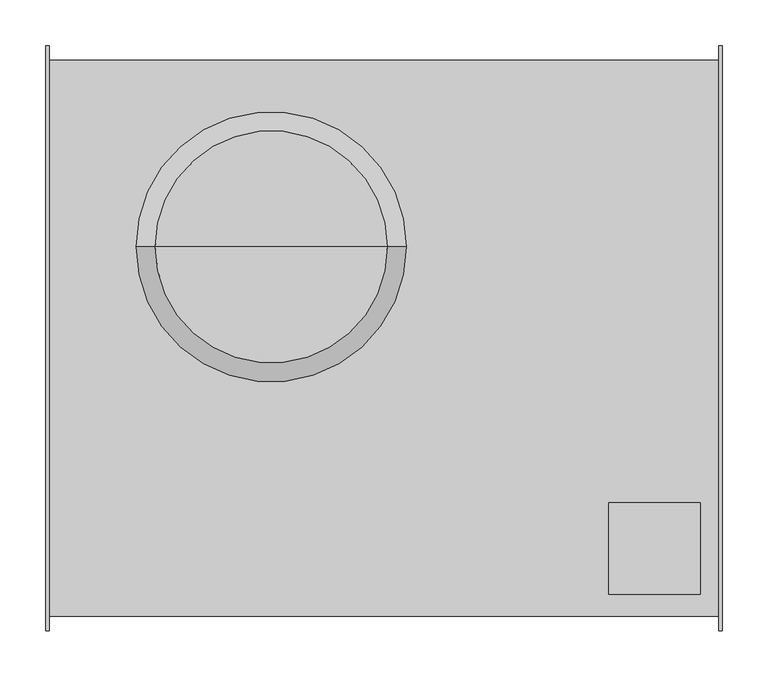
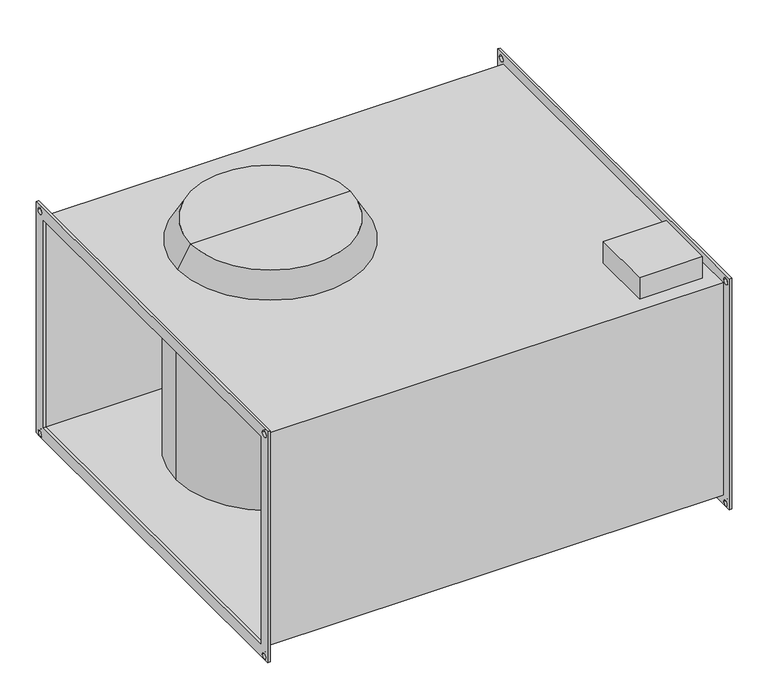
"""IFC4 building model written with IfcOpenShell, lengths in millimetres: proxy geometry."""

from ifc_helpers import new_model, si_unit, frame, origin, place, context, project, spatial, polyline, circle_curve, source, transform, mapped, element, save
from ifc_brep_helpers import plane_surface, cylinder_surface, revolved_surface, advanced_brep


def mechanical_equipment_73fcf4e4(model_context):
    return source(origin(), model_context, "Body", "AdvancedBrep", [
        advanced_brep(
        [(366.0, 320.0, 195.0), (366.0, 320.0, -195.0), (366.0, 310.0, -195.0), (366.0, 315.0, -190.0), (366.0, 305.0, -190.0), (366.0, -310.0, -195.0), (366.0, -305.0, -190.0), (366.0, -315.0, -190.0), (366.0, -320.0, -195.0), (366.0, -320.0, 195.0), (366.0, 300.0, 175.0), (366.0, -300.0, 175.0), (366.0, -300.0, -175.0), (366.0, 300.0, -175.0), (366.0, 305.0, 185.0), (366.0, 315.0, 185.0), (366.0, -315.0, 185.0), (366.0, -305.0, 185.0), (370.0, 320.0, 195.0), (370.0, -320.0, 195.0), (370.0, -320.0, -195.0), (370.0, -310.0, -195.0), (370.0, -315.0, -190.0), (370.0, -305.0, -190.0), (370.0, 310.0, -195.0), (370.0, 305.0, -190.0), (370.0, 315.0, -190.0), (370.0, 320.0, -195.0), (370.0, 300.0, 175.0), (370.0, 300.0, -175.0), (370.0, -300.0, -175.0), (370.0, -300.0, 175.0), (370.0, 315.0, 185.0), (370.0, 305.0, 185.0), (370.0, -305.0, 185.0), (370.0, -315.0, 185.0)],
        [
            (0, 1),
            (1, 2),
            (2, 3, circle_curve(frame((366.0, 310.0, -190.0), z_axis=(1.0, 0.0, 0.0), x_axis=(0.0, 1.0, 0.0)), 5.0)),
            (3, 4, circle_curve(frame((366.0, 310.0, -190.0), z_axis=(1.0, 0.0, 0.0), x_axis=(0.0, 1.0, 0.0)), 5.0)),
            (4, 2, circle_curve(frame((366.0, 310.0, -190.0), z_axis=(1.0, 0.0, 0.0), x_axis=(0.0, 1.0, 0.0)), 5.0)),
            (2, 5),
            (5, 6, circle_curve(frame((366.0, -310.0, -190.0), z_axis=(1.0, 0.0, 0.0), x_axis=(0.0, 1.0, 0.0)), 5.0)),
            (6, 7, circle_curve(frame((366.0, -310.0, -190.0), z_axis=(1.0, 0.0, 0.0), x_axis=(0.0, 1.0, 0.0)), 5.0)),
            (7, 5, circle_curve(frame((366.0, -310.0, -190.0), z_axis=(1.0, 0.0, 0.0), x_axis=(0.0, 1.0, 0.0)), 5.0)),
            (5, 8),
            (8, 9),
            (9, 0),
            (10, 11),
            (11, 12),
            (12, 13),
            (13, 10),
            (14, 15, circle_curve(frame((366.0, 310.0, 185.0), z_axis=(1.0, 0.0, 0.0), x_axis=(0.0, 1.0, 0.0)), 5.0)),
            (15, 14, circle_curve(frame((366.0, 310.0, 185.0), z_axis=(1.0, 0.0, 0.0), x_axis=(0.0, 1.0, 0.0)), 5.0)),
            (16, 17, circle_curve(frame((366.0, -310.0, 185.0), z_axis=(1.0, 0.0, 0.0), x_axis=(0.0, 1.0, 0.0)), 5.0)),
            (17, 16, circle_curve(frame((366.0, -310.0, 185.0), z_axis=(1.0, 0.0, 0.0), x_axis=(0.0, 1.0, 0.0)), 5.0)),
            (18, 19),
            (19, 20),
            (20, 21),
            (21, 22, circle_curve(frame((370.0, -310.0, -190.0), z_axis=(-1.0, 0.0, 0.0), x_axis=(0.0, 1.0, 0.0)), 5.0)),
            (22, 23, circle_curve(frame((370.0, -310.0, -190.0), z_axis=(-1.0, 0.0, 0.0), x_axis=(0.0, 1.0, 0.0)), 5.0)),
            (23, 21, circle_curve(frame((370.0, -310.0, -190.0), z_axis=(-1.0, 0.0, 0.0), x_axis=(0.0, 1.0, 0.0)), 5.0)),
            (21, 24),
            (24, 25, circle_curve(frame((370.0, 310.0, -190.0), z_axis=(-1.0, 0.0, 0.0), x_axis=(0.0, 1.0, 0.0)), 5.0)),
            (25, 26, circle_curve(frame((370.0, 310.0, -190.0), z_axis=(-1.0, 0.0, 0.0), x_axis=(0.0, 1.0, 0.0)), 5.0)),
            (26, 24, circle_curve(frame((370.0, 310.0, -190.0), z_axis=(-1.0, 0.0, 0.0), x_axis=(0.0, 1.0, 0.0)), 5.0)),
            (24, 27),
            (27, 18),
            (28, 29),
            (29, 30),
            (30, 31),
            (31, 28),
            (32, 33, circle_curve(frame((370.0, 310.0, 185.0), z_axis=(-1.0, 0.0, 0.0), x_axis=(0.0, 1.0, 0.0)), 5.0)),
            (33, 32, circle_curve(frame((370.0, 310.0, 185.0), z_axis=(-1.0, 0.0, 0.0), x_axis=(0.0, 1.0, 0.0)), 5.0)),
            (34, 35, circle_curve(frame((370.0, -310.0, 185.0), z_axis=(-1.0, 0.0, 0.0), x_axis=(0.0, 1.0, 0.0)), 5.0)),
            (35, 34, circle_curve(frame((370.0, -310.0, 185.0), z_axis=(-1.0, 0.0, 0.0), x_axis=(0.0, 1.0, 0.0)), 5.0)),
            (13, 29),
            (28, 10),
            (12, 30),
            (11, 31),
            (9, 19),
            (18, 0),
            (8, 20),
            (1, 27),
            (14, 33),
            (32, 15),
            (16, 35),
            (34, 17),
            (7, 22),
            (23, 6),
            (4, 25),
            (26, 3),
        ],
        [
            plane_surface(frame((366.0, 300.0, -175.0), z_axis=(-1.0, 0.0, 0.0), x_axis=(0.0, 0.0, 1.0))),
            plane_surface(frame((370.0, 300.0, -175.0), z_axis=(1.0, 0.0, 0.0), x_axis=(0.0, 0.0, -1.0))),
            plane_surface(frame((370.0, 300.0, 175.0), z_axis=(0.0, -1.0, 0.0), x_axis=(-1.0, 0.0, 0.0))),
            plane_surface(frame((370.0, 300.0, -175.0), z_axis=(0.0, 0.0, 1.0), x_axis=(-1.0, 0.0, 0.0))),
            plane_surface(frame((370.0, -300.0, -175.0), z_axis=(0.0, 1.0, 0.0), x_axis=(-1.0, 0.0, 0.0))),
            plane_surface(frame((370.0, -300.0, 175.0), z_axis=(0.0, 0.0, -1.0), x_axis=(-1.0, 0.0, 0.0))),
            plane_surface(frame((370.0, 320.0, 195.0), z_axis=(0.0, 0.0, 1.0), x_axis=(-1.0, 0.0, 0.0))),
            plane_surface(frame((370.0, -320.0, 195.0), z_axis=(0.0, -1.0, 0.0), x_axis=(-1.0, 0.0, 0.0))),
            plane_surface(frame((370.0, -320.0, -195.0), z_axis=(0.0, 0.0, -1.0), x_axis=(-1.0, 0.0, 0.0))),
            plane_surface(frame((370.0, 320.0, -195.0), z_axis=(0.0, 1.0, 0.0), x_axis=(-1.0, 0.0, 0.0))),
            revolved_surface(polyline([(370.0, 315.0, 185.0), (366.0, 315.0, 185.0)]), (-370.0, 310.0, 185.0), (1.0, 0.0, 0.0)),
            revolved_surface(polyline([(370.0, -305.0, 185.0), (366.0, -305.0, 185.0)]), (0.0, -310.0, 185.0), (1.0, 0.0, 0.0)),
            revolved_surface(polyline([(370.0, -305.0, -190.0), (366.0, -305.0, -190.0)]), (0.0, -310.0, -190.0), (1.0, 0.0, 0.0)),
            revolved_surface(polyline([(370.0, 315.0, -190.0), (366.0, 315.0, -190.0)]), (0.0, 310.0, -190.0), (1.0, 0.0, 0.0)),
        ],
        [
            (0, [[1, 2, 3, 4, 5, 6, 7, 8, 9, 10, 11, 12], [13, 14, 15, 16], [17, 18], [19, 20]]),
            (1, [[21, 22, 23, 24, 25, 26, 27, 28, 29, 30, 31, 32], [33, 34, 35, 36], [37, 38], [39, 40]]),
            (2, [[-16, 41, -33, 42]]),
            (3, [[-15, 43, -34, -41]]),
            (4, [[-14, 44, -35, -43]]),
            (5, [[-13, -42, -36, -44]]),
            (6, [[-12, 45, -21, 46]]),
            (7, [[-11, 47, -22, -45]]),
            (8, [[-47, -10, -6, -2, 48, -31, -27, -23]]),
            (9, [[-1, -46, -32, -48]]),
            (10, [[49, -37, 50, -17]]),
            (10, [[-49, -18, -50, -38]]),
            (11, [[51, -39, 52, -19]]),
            (11, [[-51, -20, -52, -40]]),
            (12, [[53, -24, -26, 54, -7, -9]]),
            (12, [[-53, -8, -54, -25]]),
            (13, [[55, -28, -30, 56, -3, -5]]),
            (13, [[-55, -4, -56, -29]]),
        ],
    ),
        advanced_brep(
        [(-370.0, -320.0, 195.0), (-370.0, 320.0, 195.0), (-370.0, 320.0, -195.0), (-370.0, 310.0, -195.0), (-370.0, 315.0, -190.0), (-370.0, 305.0, -190.0), (-370.0, -310.0, -195.0), (-370.0, -305.0, -190.0), (-370.0, -315.0, -190.0), (-370.0, -320.0, -195.0), (-370.0, -300.0, 175.0), (-370.0, -300.0, -175.0), (-370.0, 300.0, -175.0), (-370.0, 300.0, 175.0), (-370.0, 305.0, 185.0), (-370.0, 315.0, 185.0), (-370.0, -315.0, 185.0), (-370.0, -305.0, 185.0), (-366.0, -320.0, 195.0), (-366.0, -320.0, -195.0), (-366.0, -310.0, -195.0), (-366.0, -315.0, -190.0), (-366.0, -305.0, -190.0), (-366.0, 310.0, -195.0), (-366.0, 305.0, -190.0), (-366.0, 315.0, -190.0), (-366.0, 320.0, -195.0), (-366.0, 320.0, 195.0), (-366.0, -300.0, 175.0), (-366.0, 300.0, 175.0), (-366.0, 300.0, -175.0), (-366.0, -300.0, -175.0), (-366.0, 315.0, 185.0), (-366.0, 305.0, 185.0), (-366.0, -305.0, 185.0), (-366.0, -315.0, 185.0)],
        [
            (0, 1),
            (1, 2),
            (2, 3),
            (3, 4, circle_curve(frame((-370.0, 310.0, -190.0), z_axis=(1.0, 0.0, 0.0), x_axis=(0.0, 1.0, 0.0)), 5.0)),
            (4, 5, circle_curve(frame((-370.0, 310.0, -190.0), z_axis=(1.0, 0.0, 0.0), x_axis=(0.0, 1.0, 0.0)), 5.0)),
            (5, 3, circle_curve(frame((-370.0, 310.0, -190.0), z_axis=(1.0, 0.0, 0.0), x_axis=(0.0, 1.0, 0.0)), 5.0)),
            (3, 6),
            (6, 7, circle_curve(frame((-370.0, -310.0, -190.0), z_axis=(1.0, 0.0, 0.0), x_axis=(0.0, 1.0, 0.0)), 5.0)),
            (7, 8, circle_curve(frame((-370.0, -310.0, -190.0), z_axis=(1.0, 0.0, 0.0), x_axis=(0.0, 1.0, 0.0)), 5.0)),
            (8, 6, circle_curve(frame((-370.0, -310.0, -190.0), z_axis=(1.0, 0.0, 0.0), x_axis=(0.0, 1.0, 0.0)), 5.0)),
            (6, 9),
            (9, 0),
            (10, 11),
            (11, 12),
            (12, 13),
            (13, 10),
            (14, 15, circle_curve(frame((-370.0, 310.0, 185.0), z_axis=(1.0, 0.0, 0.0), x_axis=(0.0, 1.0, 0.0)), 5.0)),
            (15, 14, circle_curve(frame((-370.0, 310.0, 185.0), z_axis=(1.0, 0.0, 0.0), x_axis=(0.0, 1.0, 0.0)), 5.0)),
            (16, 17, circle_curve(frame((-370.0, -310.0, 185.0), z_axis=(1.0, 0.0, 0.0), x_axis=(0.0, 1.0, 0.0)), 5.0)),
            (17, 16, circle_curve(frame((-370.0, -310.0, 185.0), z_axis=(1.0, 0.0, 0.0), x_axis=(0.0, 1.0, 0.0)), 5.0)),
            (18, 19),
            (19, 20),
            (20, 21, circle_curve(frame((-366.0, -310.0, -190.0), z_axis=(-1.0, 0.0, 0.0), x_axis=(0.0, 1.0, 0.0)), 5.0)),
            (21, 22, circle_curve(frame((-366.0, -310.0, -190.0), z_axis=(-1.0, 0.0, 0.0), x_axis=(0.0, 1.0, 0.0)), 5.0)),
            (22, 20, circle_curve(frame((-366.0, -310.0, -190.0), z_axis=(-1.0, 0.0, 0.0), x_axis=(0.0, 1.0, 0.0)), 5.0)),
            (20, 23),
            (23, 24, circle_curve(frame((-366.0, 310.0, -190.0), z_axis=(-1.0, 0.0, 0.0), x_axis=(0.0, 1.0, 0.0)), 5.0)),
            (24, 25, circle_curve(frame((-366.0, 310.0, -190.0), z_axis=(-1.0, 0.0, 0.0), x_axis=(0.0, 1.0, 0.0)), 5.0)),
            (25, 23, circle_curve(frame((-366.0, 310.0, -190.0), z_axis=(-1.0, 0.0, 0.0), x_axis=(0.0, 1.0, 0.0)), 5.0)),
            (23, 26),
            (26, 27),
            (27, 18),
            (28, 29),
            (29, 30),
            (30, 31),
            (31, 28),
            (32, 33, circle_curve(frame((-366.0, 310.0, 185.0), z_axis=(-1.0, 0.0, 0.0), x_axis=(0.0, 1.0, 0.0)), 5.0)),
            (33, 32, circle_curve(frame((-366.0, 310.0, 185.0), z_axis=(-1.0, 0.0, 0.0), x_axis=(0.0, 1.0, 0.0)), 5.0)),
            (34, 35, circle_curve(frame((-366.0, -310.0, 185.0), z_axis=(-1.0, 0.0, 0.0), x_axis=(0.0, 1.0, 0.0)), 5.0)),
            (35, 34, circle_curve(frame((-366.0, -310.0, 185.0), z_axis=(-1.0, 0.0, 0.0), x_axis=(0.0, 1.0, 0.0)), 5.0)),
            (9, 19),
            (18, 0),
            (2, 26),
            (1, 27),
            (13, 29),
            (28, 10),
            (12, 30),
            (11, 31),
            (14, 33),
            (32, 15),
            (16, 35),
            (34, 17),
            (8, 21),
            (22, 7),
            (5, 24),
            (25, 4),
        ],
        [
            plane_surface(frame((-370.0, -320.0, 195.0), z_axis=(-1.0, 0.0, 0.0), x_axis=(0.0, 0.0, 1.0))),
            plane_surface(frame((-366.0, -320.0, 195.0), z_axis=(1.0, 0.0, 0.0), x_axis=(0.0, 0.0, -1.0))),
            plane_surface(frame((-366.0, -320.0, 195.0), z_axis=(0.0, -1.0, 0.0), x_axis=(-1.0, 0.0, 0.0))),
            plane_surface(frame((-366.0, -320.0, -195.0), z_axis=(0.0, 0.0, -1.0), x_axis=(-1.0, 0.0, 0.0))),
            plane_surface(frame((-366.0, 320.0, -195.0), z_axis=(0.0, 1.0, 0.0), x_axis=(-1.0, 0.0, 0.0))),
            plane_surface(frame((-366.0, 320.0, 195.0), z_axis=(0.0, 0.0, 1.0), x_axis=(-1.0, 0.0, 0.0))),
            plane_surface(frame((-366.0, -300.0, 175.0), z_axis=(0.0, 0.0, -1.0), x_axis=(-1.0, 0.0, 0.0))),
            plane_surface(frame((-366.0, 300.0, 175.0), z_axis=(0.0, -1.0, 0.0), x_axis=(-1.0, 0.0, 0.0))),
            plane_surface(frame((-366.0, 300.0, -175.0), z_axis=(0.0, 0.0, 1.0), x_axis=(-1.0, 0.0, 0.0))),
            plane_surface(frame((-366.0, -300.0, -175.0), z_axis=(0.0, 1.0, 0.0), x_axis=(-1.0, 0.0, 0.0))),
            revolved_surface(polyline([(-366.0, 315.0, 185.0), (-370.0, 315.0, 185.0)]), (-370.0, 310.0, 185.0), (1.0, 0.0, 0.0)),
            revolved_surface(polyline([(-366.0, -305.0, 185.0), (-370.0, -305.0, 185.0)]), (0.0, -310.0, 185.0), (1.0, 0.0, 0.0)),
            revolved_surface(polyline([(-366.0, -305.0, -190.0), (-370.0, -305.0, -190.0)]), (0.0, -310.0, -190.0), (1.0, 0.0, 0.0)),
            revolved_surface(polyline([(-366.0, 315.0, -190.0), (-370.0, 315.0, -190.0)]), (0.0, 310.0, -190.0), (1.0, 0.0, 0.0)),
        ],
        [
            (0, [[1, 2, 3, 4, 5, 6, 7, 8, 9, 10, 11, 12], [13, 14, 15, 16], [17, 18], [19, 20]]),
            (1, [[21, 22, 23, 24, 25, 26, 27, 28, 29, 30, 31, 32], [33, 34, 35, 36], [37, 38], [39, 40]]),
            (2, [[-12, 41, -21, 42]]),
            (3, [[-41, -11, -7, -3, 43, -30, -26, -22]]),
            (4, [[-2, 44, -31, -43]]),
            (5, [[-1, -42, -32, -44]]),
            (6, [[-16, 45, -33, 46]]),
            (7, [[-15, 47, -34, -45]]),
            (8, [[-14, 48, -35, -47]]),
            (9, [[-13, -46, -36, -48]]),
            (10, [[49, -37, 50, -17]]),
            (10, [[-49, -18, -50, -38]]),
            (11, [[51, -39, 52, -19]]),
            (11, [[-51, -20, -52, -40]]),
            (12, [[53, -23, -25, 54, -8, -10]]),
            (12, [[-53, -9, -54, -24]]),
            (13, [[55, -27, -29, 56, -4, -6]]),
            (13, [[-55, -5, -56, -28]]),
        ],
    ),
        advanced_brep(
        [(-123.3333333, 100.0, 215.0), (-250.2393226, 100.0, 215.0), (3.5726559, 100.0, 215.0), (-273.3333333, 100.0, 175.0), (-273.3333333, 100.0, -175.0), (26.6666667, 100.0, -175.0), (26.6666667, 100.0, 175.0), (366.0, -304.0, 179.0), (366.0, -304.0, -179.0), (366.0, 304.0, -179.0), (366.0, 304.0, 179.0), (366.0, 300.0, 175.0), (366.0, 300.0, -175.0), (366.0, -300.0, -175.0), (366.0, -300.0, 175.0), (-366.0, -304.0, 179.0), (-366.0, 304.0, 179.0), (-366.0, 304.0, -179.0), (-366.0, -304.0, -179.0), (-366.0, 300.0, 175.0), (-366.0, -300.0, 175.0), (-366.0, -300.0, -175.0), (-366.0, 300.0, -175.0), (246.0, -180.0, 179.0), (346.0, -180.0, 179.0), (346.0, -280.0, 179.0), (246.0, -280.0, 179.0), (24.3572656, 100.0, 179.0), (-271.0239323, 100.0, 179.0), (346.0, -180.0, 215.0), (246.0, -180.0, 215.0), (246.0, -280.0, 215.0), (346.0, -280.0, 215.0)],
        [
            (0, 1),
            (1, 2, circle_curve(frame((-123.3333333, 100.0, 215.0), z_axis=(0.0, 0.0, 1.0), x_axis=(-1.0, 0.0, 0.0)), 126.9059892)),
            (2, 0),
            (2, 1, circle_curve(frame((-123.3333333, 100.0, 215.0), z_axis=(0.0, 0.0, 1.0), x_axis=(-1.0, 0.0, 0.0)), 126.9059892)),
            (3, 4),
            (4, 5, circle_curve(frame((-123.3333333, 100.0, -175.0), z_axis=(0.0, 0.0, 1.0), x_axis=(-1.0, 0.0, 0.0)), 150.0)),
            (5, 6),
            (6, 3, circle_curve(frame((-123.3333333, 100.0, 175.0), z_axis=(0.0, 0.0, -1.0), x_axis=(-1.0, 0.0, 0.0)), 150.0)),
            (3, 6, circle_curve(frame((-123.3333333, 100.0, 175.0), z_axis=(0.0, 0.0, -1.0), x_axis=(-1.0, 0.0, 0.0)), 150.0)),
            (5, 4, circle_curve(frame((-123.3333333, 100.0, -175.0), z_axis=(0.0, 0.0, 1.0), x_axis=(-1.0, 0.0, 0.0)), 150.0)),
            (7, 8),
            (8, 9),
            (9, 10),
            (10, 7),
            (11, 12),
            (12, 13),
            (13, 14),
            (14, 11),
            (15, 16),
            (16, 17),
            (17, 18),
            (18, 15),
            (19, 20),
            (20, 21),
            (21, 22),
            (22, 19),
            (11, 19),
            (22, 12),
            (21, 13),
            (20, 14),
            (7, 15),
            (18, 8),
            (17, 9),
            (16, 10),
            (23, 24),
            (24, 25),
            (25, 26),
            (26, 23),
            (27, 28, circle_curve(frame((-123.3333333, 100.0, 179.0), z_axis=(0.0, 0.0, -1.0), x_axis=(-1.0, 0.0, 0.0)), 147.6905989)),
            (28, 27, circle_curve(frame((-123.3333333, 100.0, 179.0), z_axis=(0.0, 0.0, -1.0), x_axis=(-1.0, 0.0, 0.0)), 147.6905989)),
            (29, 30),
            (30, 31),
            (31, 32),
            (32, 29),
            (29, 24),
            (23, 30),
            (26, 31),
            (25, 32),
            (1, 28),
            (27, 2),
        ],
        [
            plane_surface(frame((-123.3333333, 100.0, 215.0), z_axis=(0.0, 0.0, 1.0), x_axis=(-1.0, 0.0, 0.0))),
            cylinder_surface(frame((-123.3333333, 100.0, 2370.3096565), z_axis=(0.0, 0.0, 1.0), x_axis=(-1.0, 0.0, 0.0)), 150.0),
            plane_surface(frame((366.0, 300.0, -175.0), z_axis=(1.0, 0.0, 0.0), x_axis=(0.0, 0.0, -1.0))),
            plane_surface(frame((-366.0, 300.0, -175.0), z_axis=(-1.0, 0.0, 0.0), x_axis=(0.0, 0.0, 1.0))),
            plane_surface(frame((366.0, 300.0, 175.0), z_axis=(0.0, -1.0, 0.0), x_axis=(-1.0, 0.0, 0.0))),
            plane_surface(frame((366.0, 300.0, -175.0), z_axis=(0.0, 0.0, 1.0), x_axis=(-1.0, 0.0, 0.0))),
            plane_surface(frame((366.0, -300.0, -175.0), z_axis=(0.0, 1.0, 0.0), x_axis=(-1.0, 0.0, 0.0))),
            plane_surface(frame((366.0, -300.0, 175.0), z_axis=(0.0, 0.0, -1.0), x_axis=(-1.0, 0.0, 0.0))),
            plane_surface(frame((366.0, -304.0, 179.0), z_axis=(0.0, -1.0, 0.0), x_axis=(-1.0, 0.0, 0.0))),
            plane_surface(frame((366.0, -304.0, -179.0), z_axis=(0.0, 0.0, -1.0), x_axis=(-1.0, 0.0, 0.0))),
            plane_surface(frame((366.0, 304.0, -179.0), z_axis=(0.0, 1.0, 0.0), x_axis=(-1.0, 0.0, 0.0))),
            plane_surface(frame((366.0, 304.0, 179.0), z_axis=(0.0, 0.0, 1.0), x_axis=(-1.0, 0.0, 0.0))),
            plane_surface(frame((246.0, -180.0, 215.0), z_axis=(0.0, 0.0, 1.0), x_axis=(-1.0, 0.0, 0.0))),
            plane_surface(frame((346.0, -180.0, 215.0), z_axis=(0.0, 1.0, 0.0), x_axis=(0.0, 0.0, -1.0))),
            plane_surface(frame((246.0, -180.0, 215.0), z_axis=(-1.0, 0.0, 0.0), x_axis=(0.0, 0.0, -1.0))),
            plane_surface(frame((246.0, -280.0, 215.0), z_axis=(0.0, -1.0, 0.0), x_axis=(0.0, 0.0, -1.0))),
            plane_surface(frame((346.0, -280.0, 215.0), z_axis=(1.0, 0.0, 0.0), x_axis=(0.0, 0.0, -1.0))),
            revolved_surface(polyline([(-273.3333333, 100.0, 175.0), (-250.2393226, 100.0, 215.0)]), (-123.3333333, 100.0, 2370.3096565), (0.0, 0.0, 1.0)),
        ],
        [
            (0, [[1, 2, 3]]),
            (0, [[-1, -3, 4]]),
            (1, [[5, 6, 7, 8]]),
            (1, [[-5, 9, -7, 10]]),
            (2, [[11, 12, 13, 14], [15, 16, 17, 18]]),
            (3, [[19, 20, 21, 22], [23, 24, 25, 26]]),
            (4, [[-15, 27, -26, 28]]),
            (5, [[-16, -28, -25, 29], [-6, -10]]),
            (6, [[-17, -29, -24, 30]]),
            (7, [[-18, -30, -23, -27], [-8, -9]]),
            (8, [[-11, 31, -22, 32]]),
            (9, [[-12, -32, -21, 33]]),
            (10, [[-13, -33, -20, 34]]),
            (11, [[-14, -34, -19, -31], [35, 36, 37, 38], [39, 40]]),
            (12, [[41, 42, 43, 44]]),
            (13, [[-41, 45, -35, 46]]),
            (14, [[-42, -46, -38, 47]]),
            (15, [[-43, -47, -37, 48]]),
            (16, [[-44, -48, -36, -45]]),
            (17, [[-2, 49, -39, 50]]),
            (17, [[-4, -50, -40, -49]]),
        ],
    ),
    ])


if __name__ == "__main__":
    model = new_model("IFC4")
    model_context = context("Model", 3, world=origin())
    ifc_project = project(units=[si_unit("LENGTHUNIT", "METRE", prefix="MILLI")], contexts=[model_context])
    site = spatial("IfcSite", under=ifc_project)
    building = spatial("IfcBuilding", under=site)
    placement = place(None, origin())
    mechanical_equipment_shape = mechanical_equipment_73fcf4e4(model_context)
    element("IfcBuildingElementProxy", 1, Name="Mechanical Equipment", at=placement, inside=building, context=model_context, shape_type="MappedRepresentation", body=[
        mapped(mechanical_equipment_shape, transform((0.0, 0.0, 0.0), x_axis=(1.0, 0.0, 0.0), y_axis=(0.0, 1.0, 0.0), z_axis=(0.0, 0.0, 1.0))),
    ])
    save(model, "model.ifc")
